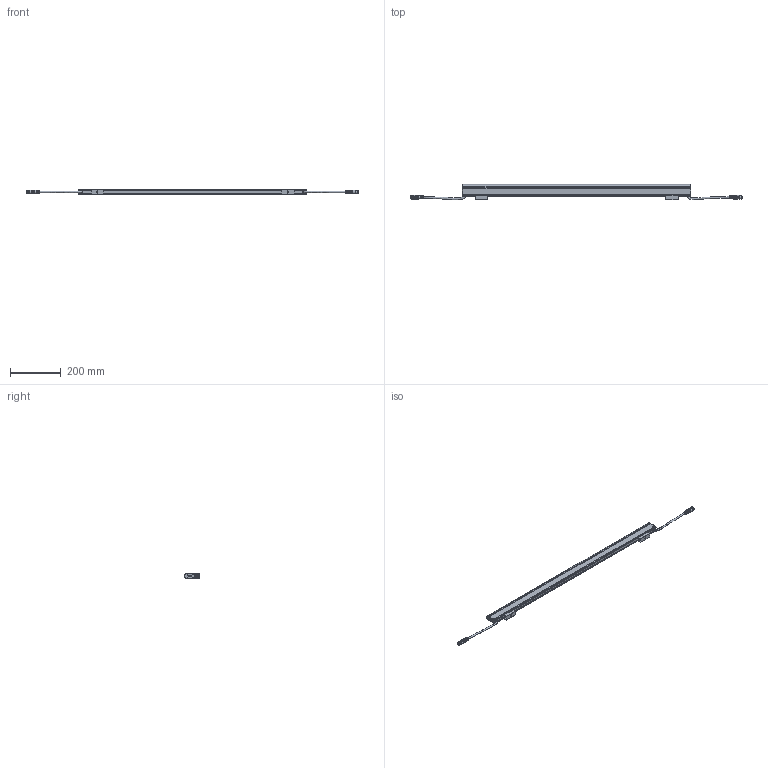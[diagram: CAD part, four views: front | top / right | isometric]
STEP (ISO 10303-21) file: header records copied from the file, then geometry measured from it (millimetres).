
FILE_DESCRIPTION (( 'STEP AP214' ), '1' );
FILE_NAME ('DiGi Linear V-Series L900 Round.STEP', '2025-07-22T11:42:15', ( '' ), ( '' ), 'SwSTEP 2.0', 'SolidWorks 2025', '' );
FILE_SCHEMA (( 'AUTOMOTIVE_DESIGN' ));
Length unit declared in the file: millimetre
Products named in the file (7): DiGi Linear V-serie - Cabling_L900; M12 3p Male; DiGi Linear V-serie - Body_L900 Round; DiGi Linear V-serie - Clip; Counter sunk screw torx_M2x6; DiGi Linear V-Series L900 Round; M12 3p Female
Assembly tree (10 placements, depth 2):
  DiGi Linear V-Series L900 Round
    DiGi Linear V-serie - Body_L900 Round
    DiGi Linear V-serie - Clip  x2
    M12 3p Male
    M12 3p Female
    DiGi Linear V-serie - Cabling_L900
    Counter sunk screw torx_M2x6  x4
Bounding box: 1307.4 x 59.99 x 18.3 mm (x, y, z)
Volume: 689018.7 mm3; surface area: 146242.2 mm2
Topology: 13 solids, 13 shells, 1274 faces, 3201 edges, 2000 vertices
Faces by surface type: plane 490, cylinder 349, bspline 184, torus 163, cone 80, sphere 8
Full cylindrical faces by diameter (mm): 2 x4, 2.4 x4, 3 x4, 6.5 x6, 9.7 x1, 10 x2, 10.8 x1, 12.3 x1, 14.3 x2
Entity records: 53678 total; most frequent: CARTESIAN_POINT 17164, ORIENTED_EDGE 5778, DIRECTION 4771, EDGE_CURVE 2889, VERTEX_POINT 1816, AXIS2_PLACEMENT_3D 1797, EDGE_LOOP 1269, FACE_OUTER_BOUND 1198
